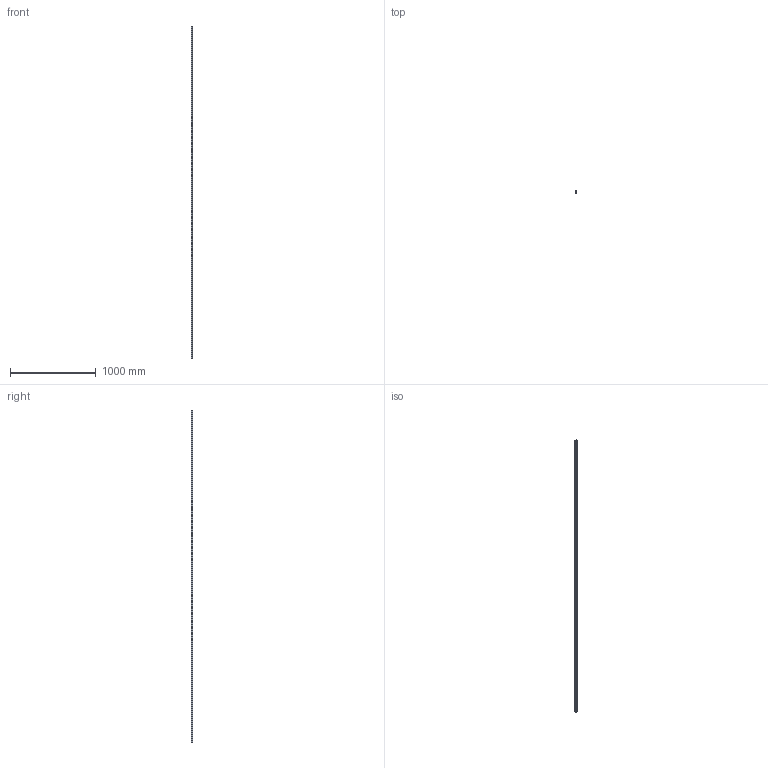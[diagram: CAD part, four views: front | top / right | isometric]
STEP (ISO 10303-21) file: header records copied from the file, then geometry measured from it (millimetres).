
FILE_DESCRIPTION (( 'STEP AP203' ), '1' );
FILE_NAME ('L1016.BRF25-3880.step', '2019-06-13T08:48:53', ( '' ), ( '' ), 'SwSTEP 2.0', 'SolidWorks 2017', '' );
FILE_SCHEMA (( 'CONFIG_CONTROL_DESIGN' ));
Length unit declared in the file: millimetre
Products named in the file (1): L1016.BRF25-3880
Bounding box: 23 x 19.2 x 3880 mm (x, y, z)
Volume: 1481442.6 mm3; surface area: 356781.4 mm2
Topology: 1 solids, 1 shells, 481 faces, 1112 edges, 633 vertices
Faces by surface type: cylinder 264, cone 130, plane 87
Entity records: 12861 total; most frequent: DIRECTION 2474, CARTESIAN_POINT 2097, ORIENTED_EDGE 1964, AXIS2_PLACEMENT_3D 1010, EDGE_CURVE 982, VERTEX_POINT 633, EDGE_LOOP 611, CIRCLE 528
